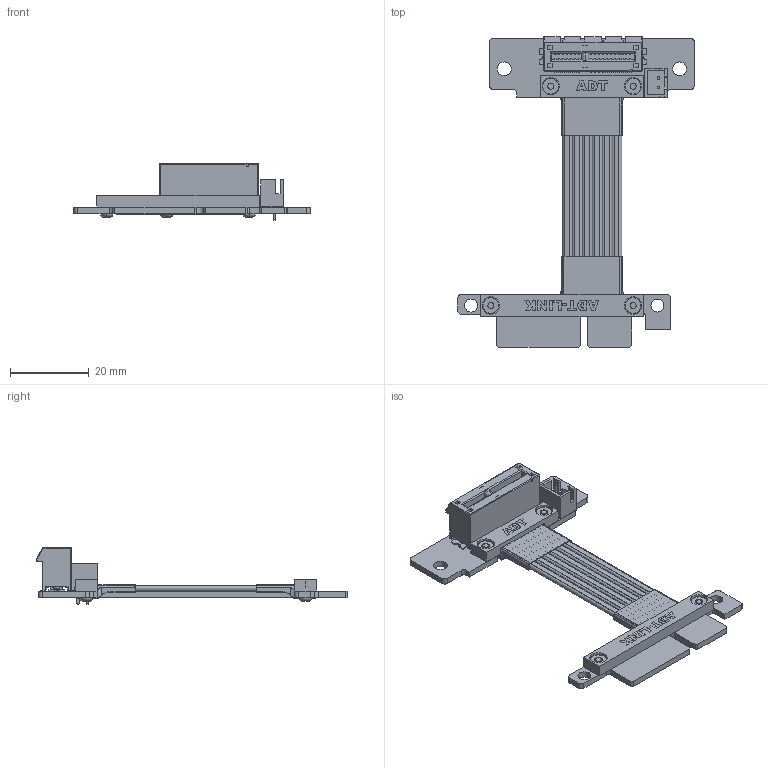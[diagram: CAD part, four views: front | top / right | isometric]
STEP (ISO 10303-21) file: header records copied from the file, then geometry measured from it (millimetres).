
FILE_DESCRIPTION(('Open CASCADE Model'),'2;1');
FILE_NAME('Open CASCADE Shape Model','2021-08-14T15:20:43',('Author'),( 'Open CASCADE'),'Open CASCADE STEP processor 6.8','Open CASCADE 6.8' ,'Unknown');
FILE_SCHEMA(('AUTOMOTIVE_DESIGN { 1 0 10303 214 1 1 1 1 }'));
Length unit declared in the file: millimetre
Products named in the file (67): PCB; Board; Open CASCADE STEP translator 6.8 8.1.1; Designator4; APCI0473-P003A_3D; Designator67; JST_2pin; Free-Models; Hexagon_nut_ISO_4032_(DIN_934)_-_M2_RGB9411503; R1SPAD4; G0033_RGB9411503; Tape14x5_RGB0; R11SL-TL_4.0___Heat_shrink_tube_RGB3947580; 5_CM_Specification_20210708; Tape28x5_RGB0; R2SPAD4
Assembly tree (76 placements, depth 3):
  PCB
    Board
      Open CASCADE STEP translator 6.8 8.1.1
    Designator4
      APCI0473-P003A_3D  x2
      APCI0473-P003A_3D
    Designator67
      JST_2pin
    Free-Models
      Hexagon_nut_ISO_4032_(DIN_934)_-_M2_RGB9411503  x4
      R1SPAD4
      R1SPAD4
      R1SPAD4
      R1SPAD4
      G0033_RGB9411503  x4
      Tape14x5_RGB0  x2
      R11SL-TL_4.0___Heat_shrink_tube_RGB3947580  x2
      5_CM_Specification_20210708
      5_CM_Specification_20210708
      5_CM_Specification_20210708
      5_CM_Specification_20210708
      5_CM_Specification_20210708
      5_CM_Specification_20210708
      5_CM_Specification_20210708
      5_CM_Specification_20210708
      5_CM_Specification_20210708
      5_CM_Specification_20210708
      5_CM_Specification_20210708
      5_CM_Specification_20210708
      5_CM_Specification_20210708
      5_CM_Specification_20210708
      5_CM_Specification_20210708
      5_CM_Specification_20210708
      5_CM_Specification_20210708
      5_CM_Specification_20210708
      5_CM_Specification_20210708
      5_CM_Specification_20210708
      5_CM_Specification_20210708
      5_CM_Specification_20210708
      5_CM_Specification_20210708
      5_CM_Specification_20210708
      5_CM_Specification_20210708
      5_CM_Specification_20210708
      5_CM_Specification_20210708
      5_CM_Specification_20210708
      5_CM_Specification_20210708
      5_CM_Specification_20210708
      5_CM_Specification_20210708
      5_CM_Specification_20210708
      5_CM_Specification_20210708
      5_CM_Specification_20210708
      5_CM_Specification_20210708
      5_CM_Specification_20210708
      5_CM_Specification_20210708
      5_CM_Specification_20210708
      5_CM_Specification_20210708
      5_CM_Specification_20210708
      Tape28x5_RGB0  x2
      R2SPAD4
      R2SPAD4
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Bounding box: 60.1 x 78.88 x 14.43 mm (x, y, z)
Volume: 8763.8 mm3; surface area: 24253.5 mm2
Topology: 72 solids, 197 shells, 8244 faces, 22571 edges, 14890 vertices
Faces by surface type: plane 6046, cylinder 1981, bspline 73, cone 66, torus 48, sphere 12, extrusion 10, revolution 8
Full cylindrical faces by diameter (mm): 0.25 x43, 0.28 x60, 0.55 x24, 0.58 x48, 0.8 x12, 1.05 x2, 1.2 x2, 2.2 x7, 3.3 x2, 3.5 x2, 4.4 x4
Entity records: 231640 total; most frequent: CARTESIAN_POINT 35349, ORIENTED_EDGE 30816, DIRECTION 29334, EDGE_CURVE 15408, VECTOR 12056, LINE 12046, VERTEX_POINT 10171, AXIS2_PLACEMENT_3D 8638
